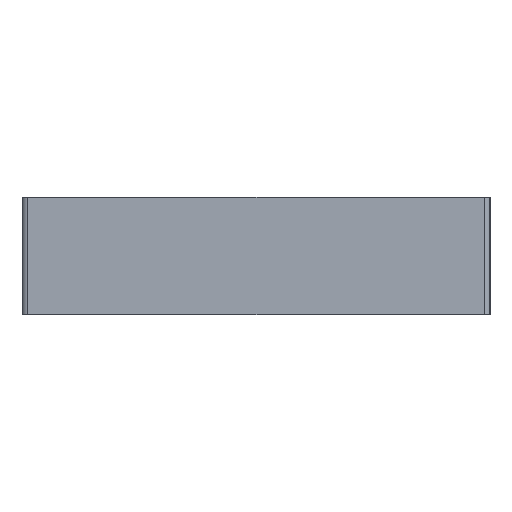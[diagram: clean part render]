
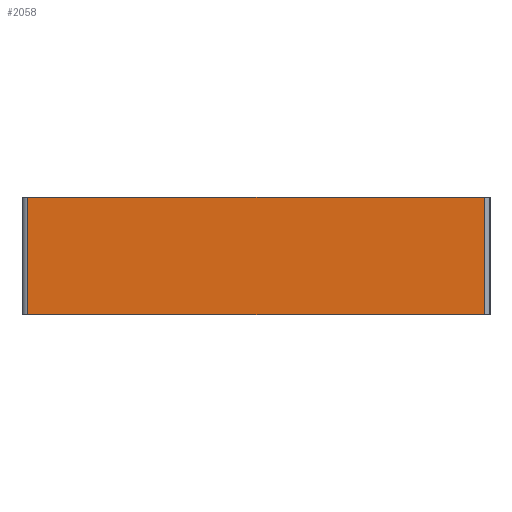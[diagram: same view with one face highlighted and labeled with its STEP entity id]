
A CAD part, left-side view. The second image highlights one B-rep face of the part: STEP entity #2058.
In plain terms, the highlighted planar face has unit normal (-1, 0, 0).
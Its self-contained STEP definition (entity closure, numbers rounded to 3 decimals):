
#275=EDGE_CURVE('',#700,#706,#709,.T.);
#371=EDGE_CURVE('',#844,#706,#847,.T.);
#459=EDGE_CURVE('',#844,#965,#969,.T.);
#581=EDGE_CURVE('',#965,#700,#1118,.T.);
#700=VERTEX_POINT('',#1271);
#706=VERTEX_POINT('',#1280);
#709=LINE('',#1284,#1285);
#844=VERTEX_POINT('',#1492);
#847=LINE('',#1496,#1497);
#965=VERTEX_POINT('',#1683);
#969=LINE('',#1688,#1689);
#1118=LINE('',#1943,#1944);
#1271=CARTESIAN_POINT('',(-70.0,-39.0,-20.0));
#1280=CARTESIAN_POINT('',(-70.0,-39.0,0.0));
#1284=CARTESIAN_POINT('',(-70.0,-39.0,-20.0));
#1285=VECTOR('',#2137,1.0);
#1492=CARTESIAN_POINT('',(-70.0,39.0,0.0));
#1496=CARTESIAN_POINT('',(-70.0,40.0,0.0));
#1497=VECTOR('',#2229,1.0);
#1683=CARTESIAN_POINT('',(-70.0,39.0,-20.0));
#1688=CARTESIAN_POINT('',(-70.0,39.0,-20.0));
#1689=VECTOR('',#2309,1.0);
#1943=CARTESIAN_POINT('',(-70.0,40.0,-20.0));
#1944=VECTOR('',#2402,1.0);
#2058=ADVANCED_FACE('',(#2575),#2576,.T.);
#2137=DIRECTION('',(0.0,0.0,1.0));
#2229=DIRECTION('',(-0.0,-1.0,-0.0));
#2309=DIRECTION('',(-0.0,-0.0,-1.0));
#2402=DIRECTION('',(-0.0,-1.0,-0.0));
#2575=FACE_OUTER_BOUND('',#2765,.T.);
#2576=PLANE('',#2766);
#2765=EDGE_LOOP('',(#3363,#3364,#3365,#3366));
#2766=AXIS2_PLACEMENT_3D('',#3367,#3368,#3369);
#3363=ORIENTED_EDGE('',*,*,#371,.F.);
#3364=ORIENTED_EDGE('',*,*,#459,.T.);
#3365=ORIENTED_EDGE('',*,*,#581,.T.);
#3366=ORIENTED_EDGE('',*,*,#275,.T.);
#3367=CARTESIAN_POINT('',(-70.0,40.0,-20.0));
#3368=DIRECTION('',(-1.0,0.0,0.0));
#3369=DIRECTION('',(0.0,0.0,1.0));
